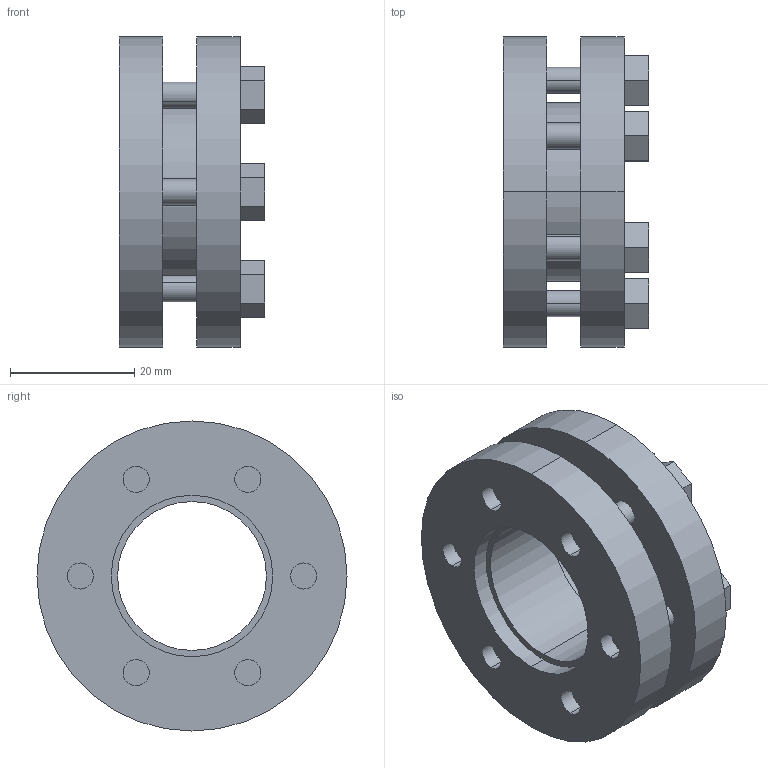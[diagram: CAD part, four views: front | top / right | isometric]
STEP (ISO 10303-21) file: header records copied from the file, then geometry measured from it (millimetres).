
FILE_DESCRIPTION (( 'STEP AP203' ), '1' );
FILE_NAME ('SSD-24.STEP', '2009-09-29T17:44:21', ( 'USER' ), ( 'HOME' ), 'SwSTEP 2.0', 'SolidWorks 2007', '' );
FILE_SCHEMA (( 'CONFIG_CONTROL_DESIGN' ));
Length unit declared in the file: millimetre
Products named in the file (1): SSD-24
Bounding box: 23.5 x 50 x 50 mm (x, y, z)
Volume: 23373.1 mm3; surface area: 13307.1 mm2
Topology: 7 solids, 7 shells, 108 faces, 252 edges, 168 vertices
Faces by surface type: plane 60, cylinder 48
Entity records: 3229 total; most frequent: DIRECTION 566, CARTESIAN_POINT 529, ORIENTED_EDGE 504, EDGE_CURVE 252, AXIS2_PLACEMENT_3D 205, VERTEX_POINT 168, VECTOR 156, LINE 156
